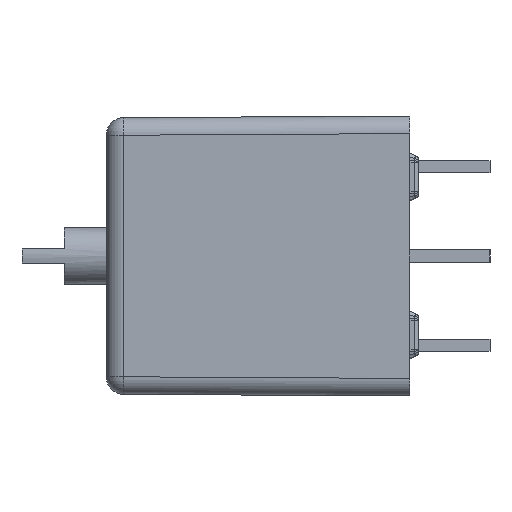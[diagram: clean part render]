
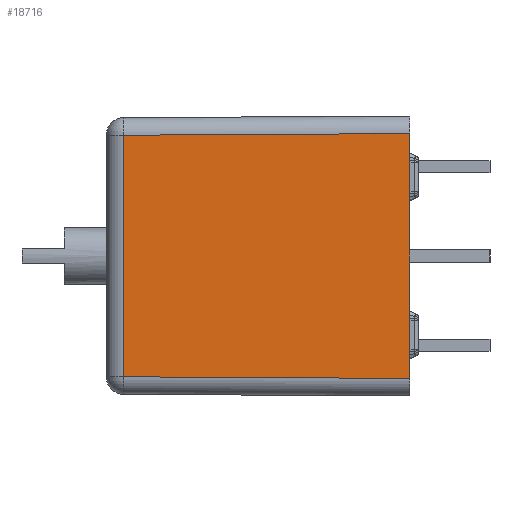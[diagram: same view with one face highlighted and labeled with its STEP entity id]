
A CAD part, left-side view. The second image highlights one B-rep face of the part: STEP entity #18716.
In plain terms, the highlighted planar face has unit normal (-1, 0.006, 0).
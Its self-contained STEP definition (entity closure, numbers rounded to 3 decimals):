
#115 = PLANE ( 'NONE',  #25482 ) ;
#390 = DIRECTION ( 'NONE',  ( 0.006, 1., -0.006 ) ) ;
#698 = DIRECTION ( 'NONE',  ( -0.006, -1., -0.006 ) ) ;
#1202 = ORIENTED_EDGE ( 'NONE', *, *, #12957, .T. ) ;
#2425 = CARTESIAN_POINT ( 'NONE',  ( -28.925, 8.85, 7.975 ) ) ;
#2673 = ORIENTED_EDGE ( 'NONE', *, *, #4673, .F. ) ;
#4614 = LINE ( 'NONE', #2425, #15105 ) ;
#4629 = CARTESIAN_POINT ( 'NONE',  ( -28.925, 8.85, 7.975 ) ) ;
#4673 = EDGE_CURVE ( 'NONE', #28427, #14861, #4614, .T. ) ;
#5678 = FACE_OUTER_BOUND ( 'NONE', #15840, .T. ) ;
#7015 = CARTESIAN_POINT ( 'NONE',  ( -28.834, 25.156, 7.975 ) ) ;
#8277 = CARTESIAN_POINT ( 'NONE',  ( -28.925, 8.844, 6.975 ) ) ;
#9199 = LINE ( 'NONE', #7015, #16317 ) ;
#12957 = EDGE_CURVE ( 'NONE', #16251, #14861, #20711, .T. ) ;
#14861 = VERTEX_POINT ( 'NONE', #26786 ) ;
#14885 = VERTEX_POINT ( 'NONE', #25606 ) ;
#15010 = LINE ( 'NONE', #8277, #27322 ) ;
#15105 = VECTOR ( 'NONE', #24060, 1000. ) ;
#15840 = EDGE_LOOP ( 'NONE', ( #22793, #22572, #1202, #2673 ) ) ;
#16251 = VERTEX_POINT ( 'NONE', #23679 ) ;
#16317 = VECTOR ( 'NONE', #18407, 1000. ) ;
#18219 = EDGE_CURVE ( 'NONE', #28427, #14885, #15010, .T. ) ;
#18407 = DIRECTION ( 'NONE',  ( 0., 0., -1. ) ) ;
#18716 = ADVANCED_FACE ( 'NONE', ( #5678 ), #115, .T. ) ;
#19839 = DIRECTION ( 'NONE',  ( -0.006, -1., 0. ) ) ;
#20616 = EDGE_CURVE ( 'NONE', #14885, #16251, #9199, .T. ) ;
#20711 = LINE ( 'NONE', #26989, #20736 ) ;
#20736 = VECTOR ( 'NONE', #698, 1000. ) ;
#22572 = ORIENTED_EDGE ( 'NONE', *, *, #20616, .T. ) ;
#22793 = ORIENTED_EDGE ( 'NONE', *, *, #18219, .T. ) ;
#23679 = CARTESIAN_POINT ( 'NONE',  ( -28.834, 25.156, -6.884 ) ) ;
#24060 = DIRECTION ( 'NONE',  ( 0., 0., -1. ) ) ;
#24506 = DIRECTION ( 'NONE',  ( -1., 0.006, 0. ) ) ;
#25482 = AXIS2_PLACEMENT_3D ( 'NONE', #4629, #24506, #19839 ) ;
#25606 = CARTESIAN_POINT ( 'NONE',  ( -28.834, 25.156, 6.884 ) ) ;
#26786 = CARTESIAN_POINT ( 'NONE',  ( -28.925, 8.85, -6.975 ) ) ;
#26989 = CARTESIAN_POINT ( 'NONE',  ( -28.925, 8.844, -6.975 ) ) ;
#27322 = VECTOR ( 'NONE', #390, 1000. ) ;
#28421 = CARTESIAN_POINT ( 'NONE',  ( -28.925, 8.85, 6.975 ) ) ;
#28427 = VERTEX_POINT ( 'NONE', #28421 ) ;
